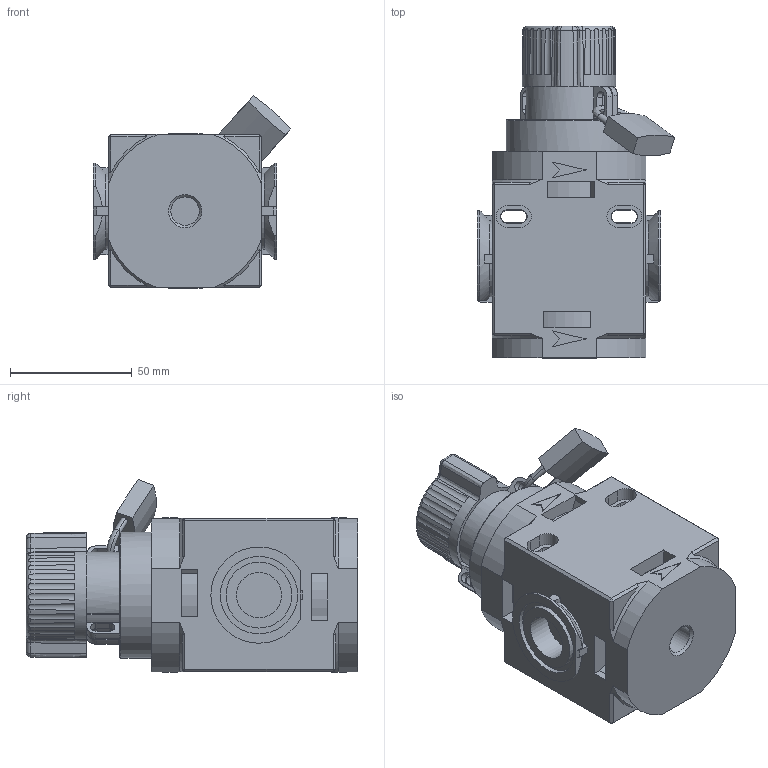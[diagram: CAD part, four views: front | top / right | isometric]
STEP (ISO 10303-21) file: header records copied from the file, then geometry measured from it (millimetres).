
FILE_DESCRIPTION((''),'2;1');
FILE_NAME('F:\AirCom-Produktdokumentation\Ventile\Einschaltventile\CAD\CAD AirCom\3D\B-V075-04.stp','2010-04-20T14:23:21',('Frank Schroers'),(''),'Autodesk Inventor 2008','Autodesk Inventor 2008','');
FILE_SCHEMA(('AUTOMOTIVE_DESIGN { 1 0 10303 214 1 1 1 1 }'));
Length unit declared in the file: millimetre
Products named in the file (1): 0752500001
Bounding box: 81.3 x 136.5 x 79.34 mm (x, y, z)
Volume: 393228.9 mm3; surface area: 49811 mm2
Topology: 1 solids, 1 shells, 388 faces, 1022 edges, 660 vertices
Faces by surface type: plane 234, cylinder 95, cone 24, bspline 20, torus 11, sphere 4
Full cylindrical faces by diameter (mm): 11.7 x1, 18.63 x2, 27.1 x1, 31.8 x1, 35.5 x1, 51.8 x1
Entity records: 13303 total; most frequent: CARTESIAN_POINT 3338, ORIENTED_EDGE 2014, DIRECTION 1958, EDGE_CURVE 1007, AXIS2_PLACEMENT_3D 713, VERTEX_POINT 657, VECTOR 532, LINE 532
